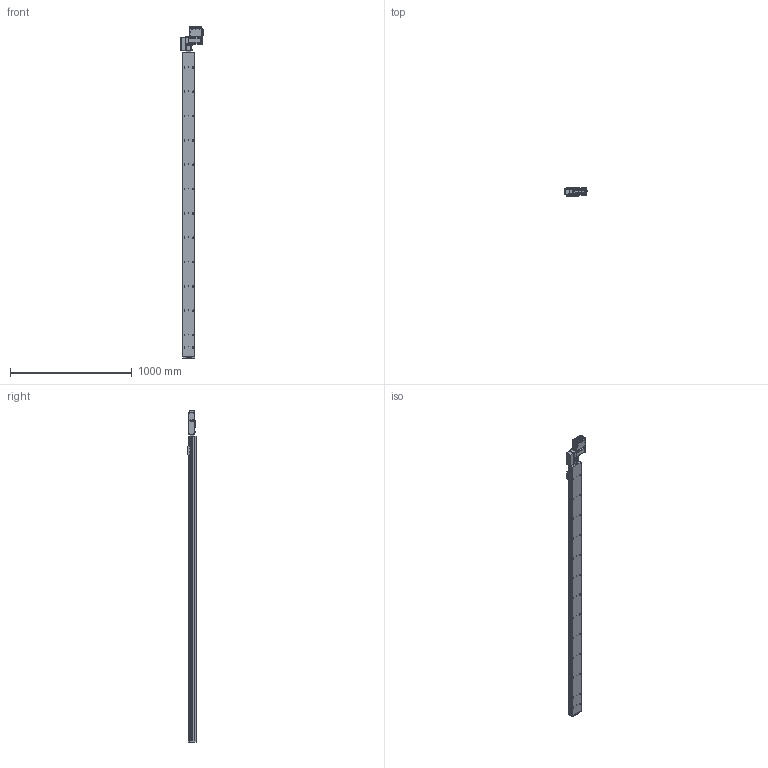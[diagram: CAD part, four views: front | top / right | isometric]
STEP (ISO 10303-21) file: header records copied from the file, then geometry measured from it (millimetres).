
FILE_DESCRIPTION (( 'STEP AP203' ), '1' );
FILE_NAME ('S10 TBN LT S2500.STEP', '2012-06-19T10:33:30', ( 'Conseil Régional Haute-Normandie' ), ( 'Conseil Régional Haute-Normandie' ), 'SwSTEP 2.0', 'SolidWorks 2010', '' );
FILE_SCHEMA (( 'CONFIG_CONTROL_DESIGN' ));
Length unit declared in the file: millimetre
Products named in the file (30): embout; plaque de bout s10_Default; palette tbn; vis M5 L5_Default; Assem1_7; Moteur 60BLDC90A_3; Couvercle_3; T_X2_00F4_X0_le fond_3; Colonnette ronde_3; T_X2_00F4_X0_le Arri_X2_00E8_X0_re_5; S10 TBN LT S2500; cache t皻e axe_Default; cache t皻e_Default; Cvis M5 L30_Default; Plaque racord_Default; renvoi LH_Default; vis M5 L12_Default; Vis M5 L16-2_Default_1; T_X2_00F4_X0_le contre le moteur_5; BU41 Carte Alimentation P05_3; Colonnette_3; BU45 Carte d''axe A11_5; Connecteur rond D10 3cts_5; Connecteur rond D12 4cts_5; Sub D 9cts 90_X2_00B_X0__3; Radiateur profil_X2_00E9_X0_ 100x25_3; T_X2_00F4_X0_le lat_X2_00E9_X0_rale_5; Vis TF 3 torkx_1_1; axe2500_Default; axe 2500
Assembly tree (63 placements, depth 3):
  S10 TBN LT S2500
    embout
    cache t皻e_Default  x2
    Plaque racord_Default
    renvoi LH_Default
    vis M5 L5_Default  x4
    Cvis M5 L30_Default  x2
    palette tbn
    axe2500_Default
      axe 2500
    cache t皻e axe_Default
    vis M5 L12_Default  x4
    plaque de bout s10_Default
    Vis M5 L16-2_Default_1  x4
    Assem1_7
      Vis TF 3 torkx_1_1  x21
      T_X2_00F4_X0_le fond_3
      Sub D 9cts 90_X2_00B_X0__3
      Connecteur rond D10 3cts_5  x2
      BU45 Carte d''axe A11_5
      Radiateur profil_X2_00E9_X0_ 100x25_3
      Couvercle_3
      T_X2_00F4_X0_le contre le moteur_5
      BU41 Carte Alimentation P05_3
      Colonnette ronde_3
      T_X2_00F4_X0_le lat_X2_00E9_X0_rale_5  x2
      Connecteur rond D12 4cts_5
      Colonnette_3  x2
      Moteur 60BLDC90A_3
      T_X2_00F4_X0_le Arri_X2_00E8_X0_re_5
Bounding box: 189.8 x 66.75 x 2728.49 mm (x, y, z)
Volume: 13742708.8 mm3; surface area: 1469706.8 mm2
Topology: 61 solids, 61 shells, 2364 faces, 5853 edges, 3782 vertices
Faces by surface type: plane 1111, cylinder 1036, cone 174, bspline 40, torus 3
Entity records: 49809 total; most frequent: CARTESIAN_POINT 8939, DIRECTION 8086, ORIENTED_EDGE 7302, EDGE_CURVE 3651, AXIS2_PLACEMENT_3D 3028, VERTEX_POINT 2386, VECTOR 2030, LINE 2030
